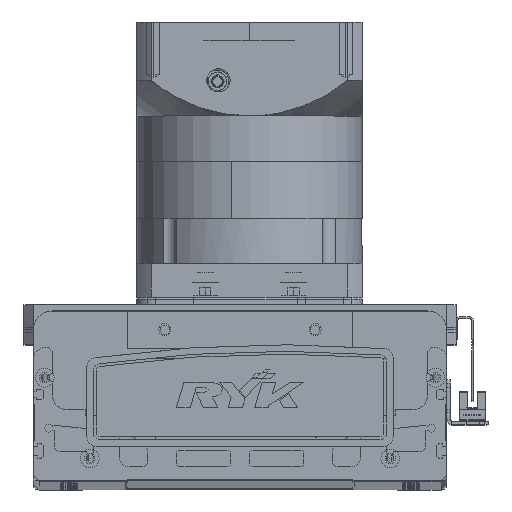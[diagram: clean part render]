
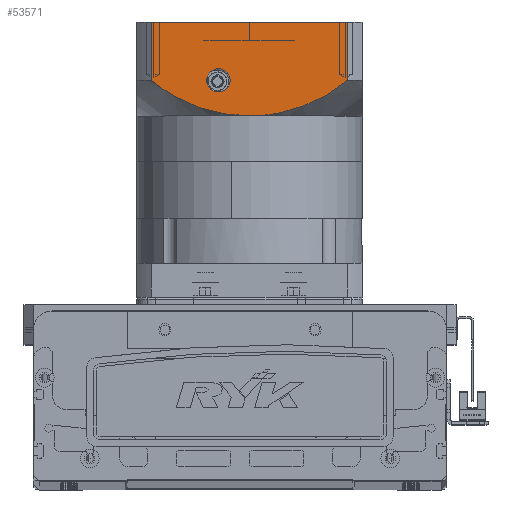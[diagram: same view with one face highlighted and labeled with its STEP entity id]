
A CAD part, top view. The second image highlights one B-rep face of the part: STEP entity #53571.
In plain terms, the highlighted planar face has unit normal (0, 0, 1) as drawn and (0, -1, 0) by its records, which use the part's own axes.
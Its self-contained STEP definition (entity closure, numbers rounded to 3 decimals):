
#1938 = DIRECTION ( 'NONE',  ( 0., 0., -1. ) ) ;
#3699 = CARTESIAN_POINT ( 'NONE',  ( 16.5, -60., -119.5 ) ) ;
#3706 = CARTESIAN_POINT ( 'NONE',  ( -23.319, -60., -103.777 ) ) ;
#4381 = CARTESIAN_POINT ( 'NONE',  ( 19.894, -60., -102.964 ) ) ;
#5081 = CARTESIAN_POINT ( 'NONE',  ( 0., -60., -100.5 ) ) ;
#5181 = CARTESIAN_POINT ( 'NONE',  ( 52.156, -60., -150.5 ) ) ;
#5330 = CARTESIAN_POINT ( 'NONE',  ( 41.545, -60., -111.931 ) ) ;
#6298 = PLANE ( 'NONE',  #44943 ) ;
#6318 = DIRECTION ( 'NONE',  ( 0., 1., 0. ) ) ;
#7270 = CARTESIAN_POINT ( 'NONE',  ( 16.5, -60., -119.5 ) ) ;
#8275 = CARTESIAN_POINT ( 'NONE',  ( -52.156, -60., -119.5 ) ) ;
#8761 = CARTESIAN_POINT ( 'NONE',  ( 0., -60., -100.5 ) ) ;
#8993 = AXIS2_PLACEMENT_3D ( 'NONE', #3699, #71152, #48596 ) ;
#9265 = CARTESIAN_POINT ( 'NONE',  ( -12.993, -60., -101.537 ) ) ;
#10207 = CARTESIAN_POINT ( 'NONE',  ( 36.444, -60., -108.986 ) ) ;
#10277 = VECTOR ( 'NONE', #18806, 1000. ) ;
#10376 = EDGE_LOOP ( 'NONE', ( #49056, #32578 ) ) ;
#10445 = CARTESIAN_POINT ( 'NONE',  ( 4.753, -60., -100.5 ) ) ;
#10682 = CARTESIAN_POINT ( 'NONE',  ( 18.739, -60., -102.681 ) ) ;
#11861 = EDGE_CURVE ( 'NONE', #55558, #52015, #48593, .T. ) ;
#12176 = VERTEX_POINT ( 'NONE', #62471 ) ;
#13353 = DIRECTION ( 'NONE',  ( 0., -1., 0. ) ) ;
#16050 = CARTESIAN_POINT ( 'NONE',  ( 16.426, -60., -102.169 ) ) ;
#16053 = B_SPLINE_CURVE_WITH_KNOTS ( 'NONE', 3,
 ( #5081, #10445, #32771, #49511, #16050, #10682, #4381, #32563, #55322, #26763, #10207, #5330, #21407, #43434, #38359, #44147, #54869, #59994 ),
 .UNSPECIFIED., .F., .F.,
 ( 4, 2, 2, 2, 2, 2, 2, 2, 4 ),
 ( 0., 0.014, 0.018, 0.021, 0.028, 0.042, 0.046, 0.05, 0.057 ),
 .UNSPECIFIED. ) ;
#17744 = VERTEX_POINT ( 'NONE', #56995 ) ;
#18806 = DIRECTION ( 'NONE',  ( 1., 0., 0. ) ) ;
#18931 = DIRECTION ( 'NONE',  ( 1., 0., 0. ) ) ;
#20374 = ORIENTED_EDGE ( 'NONE', *, *, #42829, .F. ) ;
#20471 = CARTESIAN_POINT ( 'NONE',  ( -32.118, -60., -107.084 ) ) ;
#21407 = CARTESIAN_POINT ( 'NONE',  ( 42.555, -60., -112.543 ) ) ;
#21720 = EDGE_CURVE ( 'NONE', #25960, #17744, #48364, .T. ) ;
#24844 = CARTESIAN_POINT ( 'NONE',  ( -11.825, -60., -101.356 ) ) ;
#25599 = DIRECTION ( 'NONE',  ( 0., 0., 1. ) ) ;
#25810 = CARTESIAN_POINT ( 'NONE',  ( -39.546, -60., -110.776 ) ) ;
#25960 = VERTEX_POINT ( 'NONE', #40151 ) ;
#26763 = CARTESIAN_POINT ( 'NONE',  ( 32.196, -60., -107.007 ) ) ;
#26959 = CARTESIAN_POINT ( 'NONE',  ( -52.156, -60., -150.5 ) ) ;
#29687 = VERTEX_POINT ( 'NONE', #40018 ) ;
#31152 = CARTESIAN_POINT ( 'NONE',  ( -8.294, -60., -100.916 ) ) ;
#31465 = CARTESIAN_POINT ( 'NONE',  ( -52.156, -60., -97.5 ) ) ;
#32070 = ORIENTED_EDGE ( 'NONE', *, *, #69150, .F. ) ;
#32074 = FACE_BOUND ( 'NONE', #10376, .T. ) ;
#32563 = CARTESIAN_POINT ( 'NONE',  ( 23.329, -60., -103.886 ) ) ;
#32578 = ORIENTED_EDGE ( 'NONE', *, *, #37727, .T. ) ;
#32771 = CARTESIAN_POINT ( 'NONE',  ( 9.454, -60., -100.914 ) ) ;
#33223 = CARTESIAN_POINT ( 'NONE',  ( 0., -60., -100.5 ) ) ;
#35991 = CARTESIAN_POINT ( 'NONE',  ( -35.342, -60., -108.587 ) ) ;
#36961 = CARTESIAN_POINT ( 'NONE',  ( -29.939, -60., -106.183 ) ) ;
#37255 = DIRECTION ( 'NONE',  ( 0., 0., 1. ) ) ;
#37727 = EDGE_CURVE ( 'NONE', #17744, #25960, #66009, .T. ) ;
#38359 = CARTESIAN_POINT ( 'NONE',  ( 45.542, -60., -114.478 ) ) ;
#40018 = CARTESIAN_POINT ( 'NONE',  ( -52.156, -60., -119.5 ) ) ;
#40151 = CARTESIAN_POINT ( 'NONE',  ( 16.5, -60., -125.75 ) ) ;
#41535 = CARTESIAN_POINT ( 'NONE',  ( -2.376, -60., -100.5 ) ) ;
#42168 = VERTEX_POINT ( 'NONE', #33223 ) ;
#42512 = CARTESIAN_POINT ( 'NONE',  ( -18.792, -60., -102.562 ) ) ;
#42829 = EDGE_CURVE ( 'NONE', #42168, #12176, #16053, .T. ) ;
#43434 = CARTESIAN_POINT ( 'NONE',  ( 44.553, -60., -113.817 ) ) ;
#43836 = VECTOR ( 'NONE', #25599, 1000. ) ;
#44147 = CARTESIAN_POINT ( 'NONE',  ( 48.457, -60., -116.522 ) ) ;
#44554 = ORIENTED_EDGE ( 'NONE', *, *, #64669, .F. ) ;
#44943 = AXIS2_PLACEMENT_3D ( 'NONE', #56074, #13353, #18931 ) ;
#47151 = CARTESIAN_POINT ( 'NONE',  ( -36.409, -60., -109.113 ) ) ;
#47181 = CARTESIAN_POINT ( 'NONE',  ( -60., -60., -150.5 ) ) ;
#47382 = CARTESIAN_POINT ( 'NONE',  ( -4.747, -60., -100.604 ) ) ;
#47623 = CARTESIAN_POINT ( 'NONE',  ( -44.656, -60., -113.73 ) ) ;
#48119 = CARTESIAN_POINT ( 'NONE',  ( -9.477, -60., -101.046 ) ) ;
#48364 = CIRCLE ( 'NONE', #8993, 6.25 ) ;
#48593 = LINE ( 'NONE', #47181, #10277 ) ;
#48596 = DIRECTION ( 'NONE',  ( 0., 0., -1. ) ) ;
#49056 = ORIENTED_EDGE ( 'NONE', *, *, #21720, .T. ) ;
#49511 = CARTESIAN_POINT ( 'NONE',  ( 15.267, -60., -101.938 ) ) ;
#49773 = LINE ( 'NONE', #31465, #68036 ) ;
#50504 = B_SPLINE_CURVE_WITH_KNOTS ( 'NONE', 3,
 ( #8275, #58807, #47623, #25810, #70201, #47151, #35991, #20471, #36961, #3706, #42512, #9265, #24844, #48119, #31152, #47382, #41535, #8761 ),
 .UNSPECIFIED., .F., .F.,
 ( 4, 2, 2, 2, 2, 2, 2, 2, 4 ),
 ( 0., 0.014, 0.018, 0.021, 0.028, 0.042, 0.046, 0.05, 0.057 ),
 .UNSPECIFIED. ) ;
#52015 = VERTEX_POINT ( 'NONE', #5181 ) ;
#53571 = ADVANCED_FACE ( 'NONE', ( #67655, #32074 ), #6298, .T. ) ;
#54869 = CARTESIAN_POINT ( 'NONE',  ( 50.338, -60., -117.969 ) ) ;
#55322 = CARTESIAN_POINT ( 'NONE',  ( 25.577, -60., -104.596 ) ) ;
#55558 = VERTEX_POINT ( 'NONE', #26959 ) ;
#56074 = CARTESIAN_POINT ( 'NONE',  ( -60., -60., -150.5 ) ) ;
#56995 = CARTESIAN_POINT ( 'NONE',  ( 16.5, -60., -113.25 ) ) ;
#58634 = LINE ( 'NONE', #63723, #43836 ) ;
#58807 = CARTESIAN_POINT ( 'NONE',  ( -48.52, -60., -116.438 ) ) ;
#59994 = CARTESIAN_POINT ( 'NONE',  ( 52.156, -60., -119.5 ) ) ;
#60907 = EDGE_LOOP ( 'NONE', ( #44554, #64302, #65489, #20374, #32070 ) ) ;
#62471 = CARTESIAN_POINT ( 'NONE',  ( 52.156, -60., -119.5 ) ) ;
#63723 = CARTESIAN_POINT ( 'NONE',  ( 52.156, -60., -150.5 ) ) ;
#64302 = ORIENTED_EDGE ( 'NONE', *, *, #11861, .T. ) ;
#64669 = EDGE_CURVE ( 'NONE', #55558, #29687, #49773, .T. ) ;
#65489 = ORIENTED_EDGE ( 'NONE', *, *, #70597, .T. ) ;
#66009 = CIRCLE ( 'NONE', #68090, 6.25 ) ;
#67655 = FACE_OUTER_BOUND ( 'NONE', #60907, .T. ) ;
#68036 = VECTOR ( 'NONE', #37255, 1000. ) ;
#68090 = AXIS2_PLACEMENT_3D ( 'NONE', #7270, #6318, #1938 ) ;
#69150 = EDGE_CURVE ( 'NONE', #29687, #42168, #50504, .T. ) ;
#70201 = CARTESIAN_POINT ( 'NONE',  ( -38.51, -60., -110.207 ) ) ;
#70597 = EDGE_CURVE ( 'NONE', #52015, #12176, #58634, .T. ) ;
#71152 = DIRECTION ( 'NONE',  ( 0., 1., 0. ) ) ;
